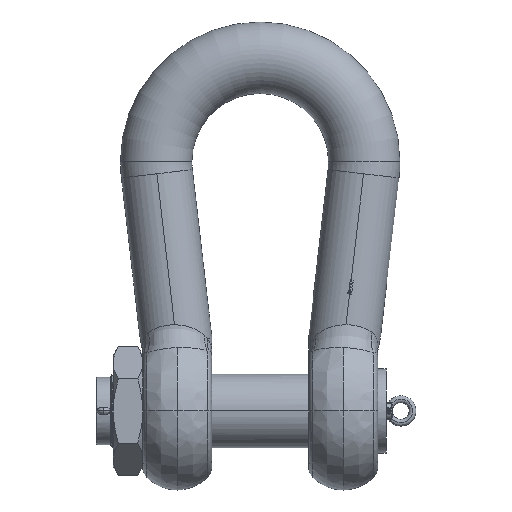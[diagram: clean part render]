
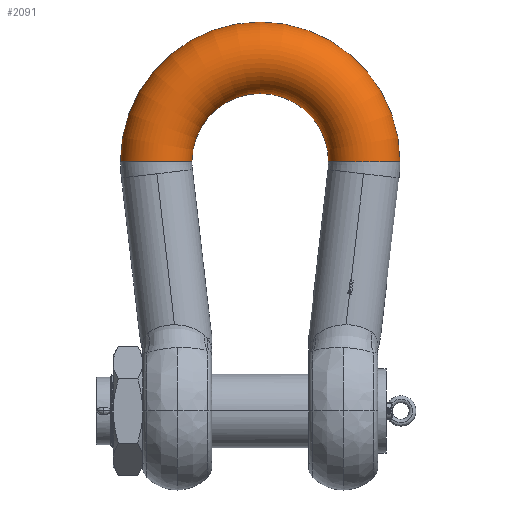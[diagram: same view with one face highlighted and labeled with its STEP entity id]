
A CAD part, front view. The second image highlights one B-rep face of the part: STEP entity #2091.
In plain terms, the highlighted toroidal (fillet/blend) face has major radius 247.5 mm and minor radius 84.995 mm.
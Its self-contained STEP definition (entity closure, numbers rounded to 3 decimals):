
#2091=ADVANCED_FACE('',(#5020),#5021,.T.);
#5020=FACE_OUTER_BOUND('',#10887,.T.);
#5021=TOROIDAL_SURFACE('',#10888,247.5,84.995);
#10887=EDGE_LOOP('',(#35433,#35434,#35435,#35436));
#10888=AXIS2_PLACEMENT_3D('',#35437,#35438,#35439);
#35433=ORIENTED_EDGE('',*,*,#47090,.T.);
#35434=ORIENTED_EDGE('',*,*,#47091,.F.);
#35435=ORIENTED_EDGE('',*,*,#47092,.T.);
#35436=ORIENTED_EDGE('',*,*,#46965,.F.);
#35437=CARTESIAN_POINT('',(0.0,0.0,593.0));
#35438=DIRECTION('',(0.0,-1.0,0.0));
#35439=DIRECTION('',(1.0,0.0,0.0));
#46965=EDGE_CURVE('',#54204,#54203,#54206,.F.);
#47090=EDGE_CURVE('',#54204,#54368,#54369,.F.);
#47091=EDGE_CURVE('',#54370,#54368,#54371,.T.);
#47092=EDGE_CURVE('',#54370,#54203,#54372,.T.);
#54203=VERTEX_POINT('',#68516);
#54204=VERTEX_POINT('',#68517);
#54206=CIRCLE('',#68519,84.995);
#54368=VERTEX_POINT('',#68857);
#54369=CIRCLE('',#68858,162.505);
#54370=VERTEX_POINT('',#68859);
#54371=B_SPLINE_CURVE_WITH_KNOTS('',5,(#68860,#68861,#68862,#68863,#68864,#68865,#68866,#68867,#68868,#68869,#68870,#68871,#68872,#68873,#68874,#68875,#68876,#68877,#68878,#68879,#68880,#68881,#68882,#68883),.UNSPECIFIED.,.F.,.F.,(6,3,3,3,3,3,3,6),(0.,54.292,108.583,162.875,217.167,271.458,325.75,377.62),.UNSPECIFIED.);
#54372=CIRCLE('',#68884,332.495);
#68516=CARTESIAN_POINT('',(-332.495,0.0,593.0));
#68517=CARTESIAN_POINT('',(-162.505,0.,593.0));
#68519=AXIS2_PLACEMENT_3D('',#100916,#100917,#100918);
#68857=CARTESIAN_POINT('',(162.505,0.,593.0));
#68858=AXIS2_PLACEMENT_3D('',#100923,#100924,#100925);
#68859=CARTESIAN_POINT('',(332.495,0.0,593.0));
#68860=CARTESIAN_POINT('',(332.495,0.,593.0));
#68861=CARTESIAN_POINT('',(332.495,-7.678,593.0));
#68862=CARTESIAN_POINT('',(331.628,-15.356,593.0));
#68863=CARTESIAN_POINT('',(329.894,-22.904,593.0));
#68864=CARTESIAN_POINT('',(324.751,-37.477,593.0));
#68865=CARTESIAN_POINT('',(316.489,-50.536,593.0));
#68866=CARTESIAN_POINT('',(311.634,-56.57,593.0));
#68867=CARTESIAN_POINT('',(300.647,-67.437,593.0));
#68868=CARTESIAN_POINT('',(287.513,-75.58,593.0));
#68869=CARTESIAN_POINT('',(280.511,-78.89,593.0));
#68870=CARTESIAN_POINT('',(265.883,-83.871,593.0));
#68871=CARTESIAN_POINT('',(250.511,-85.465,593.0));
#68872=CARTESIAN_POINT('',(242.767,-85.387,593.0));
#68873=CARTESIAN_POINT('',(227.432,-83.484,593.0));
#68874=CARTESIAN_POINT('',(212.906,-78.209,593.0));
#68875=CARTESIAN_POINT('',(205.973,-74.758,593.0));
#68876=CARTESIAN_POINT('',(193.006,-66.352,593.0));
#68877=CARTESIAN_POINT('',(182.239,-55.266,593.0));
#68878=CARTESIAN_POINT('',(177.507,-49.136,593.0));
#68879=CARTESIAN_POINT('',(169.688,-36.208,593.0));
#68880=CARTESIAN_POINT('',(164.879,-21.893,593.0));
#68881=CARTESIAN_POINT('',(163.296,-14.671,593.0));
#68882=CARTESIAN_POINT('',(162.505,-7.336,593.0));
#68883=CARTESIAN_POINT('',(162.505,0.0,593.0));
#68884=AXIS2_PLACEMENT_3D('',#100926,#100927,#100928);
#100916=CARTESIAN_POINT('',(-247.5,0.0,593.0));
#100917=DIRECTION('',(0.,0.0,1.0));
#100918=DIRECTION('',(-1.0,0.0,0.));
#100923=CARTESIAN_POINT('',(0.0,0.,593.0));
#100924=DIRECTION('',(0.0,-1.0,0.0));
#100925=DIRECTION('',(-1.0,0.0,0.0));
#100926=CARTESIAN_POINT('',(0.0,0.,593.0));
#100927=DIRECTION('',(0.0,-1.0,0.0));
#100928=DIRECTION('',(-1.0,0.0,0.0));
